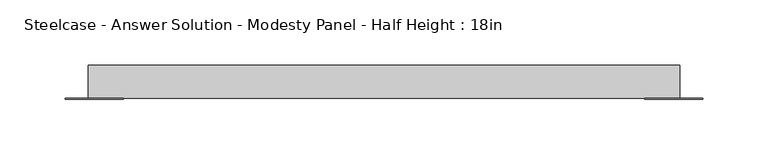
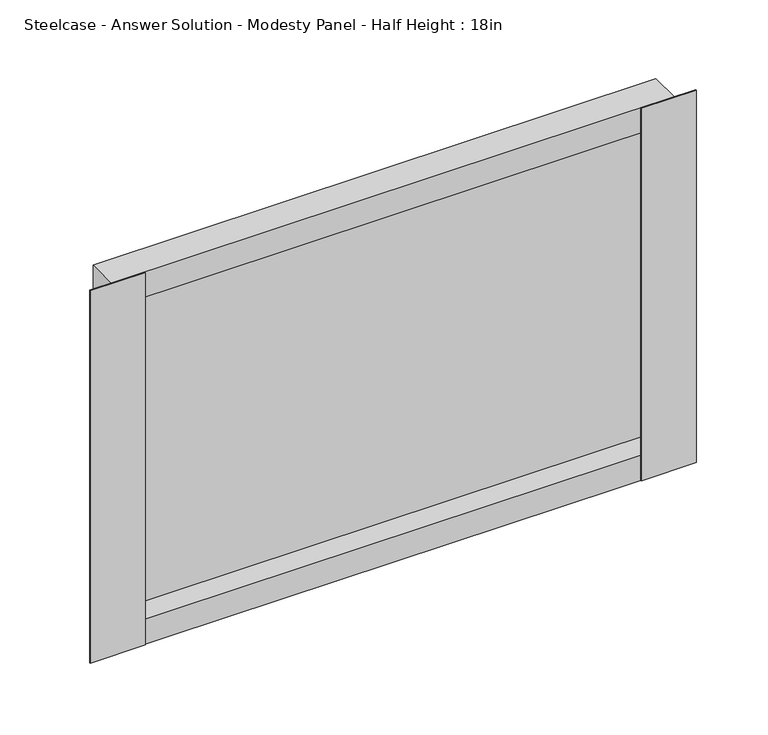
"""IFC4 building model written with IfcOpenShell, lengths in millimetres: furniture geometry, Steelcase - Answer Solution - Modesty Panel - Half Height : 18in."""

from ifc_helpers import new_model, si_unit, frame, origin, place, context, project, spatial, polyline, outline, extrude, faceted_brep, source, transform, mapped, element, save


def steelcase_answer_solution_modesty_panel_half_height_18in_19784406(model_context):
    return source(origin(), model_context, "Body", "SolidModel", [
        extrude(outline(polyline([(1000.7400478, -14.2668826), (1000.7400478, -15.0593624), (956.3248254, -15.0593624), (956.3248254, -14.2668826), (1000.7400478, -14.2668826)])), frame((0.0, 0.0, 17.653), z_axis=(0.0, 0.0, 1.0), x_axis=(1.0, 0.0, 0.0)), (0.0, 0.0, 1.0), 317.5),
        extrude(outline(polyline([(556.9673392, -14.2668826), (556.9673392, -15.0593624), (512.5520826, -15.0593624), (512.5520826, -14.2668826), (556.9673392, -14.2668826)])), frame((0.0, 0.0, 17.653), z_axis=(0.0, 0.0, 1.0), x_axis=(1.0, 0.0, 0.0)), (0.0, 0.0, 1.0), 317.5),
        faceted_brep([(530.0780827, 10.9045177, 17.653), (530.0780827, -14.2668826, 17.653), (530.0780827, -14.2668826, 335.153), (530.0780827, 10.9045177, 335.153), (983.2140827, -14.2668826, 17.653), (983.2140827, 10.9045177, 17.653), (983.2140827, 10.9045177, 335.153), (983.2140827, -14.2668826, 335.153), (982.4216165, 4.7831174, 39.243), (530.8705628, 4.7831174, 39.243), (530.8705628, -14.2668826, 39.243), (982.4216165, -14.2668826, 39.243), (530.8705628, -14.2668826, 313.563), (982.4216165, -14.2668826, 313.563), (530.8705628, 4.7831174, 313.563), (982.4216165, 4.7831174, 313.563)], [[[0, 1, 2, 3]], [[4, 5, 6, 7]], [[8, 9, 10, 11]], [[0, 3, 6, 5]], [[4, 1, 0, 5]], [[2, 1, 4, 7], [10, 12, 13, 11]], [[3, 2, 7, 6]], [[14, 15, 13, 12]], [[9, 8, 15, 14]], [[12, 10, 9, 14]], [[11, 13, 15, 8]]]),
    ])


if __name__ == "__main__":
    model = new_model("IFC4")
    model_context = context("Model", 3, world=origin())
    ifc_project = project(units=[si_unit("LENGTHUNIT", "METRE", prefix="MILLI")], contexts=[model_context])
    site = spatial("IfcSite", under=ifc_project)
    building = spatial("IfcBuilding", under=site)
    placement = place(None, origin())
    steelcase_answer_solution_modesty_panel_half_height_18in_shape = steelcase_answer_solution_modesty_panel_half_height_18in_19784406(model_context)
    element("IfcFurniture", 1, ObjectType="Steelcase - Answer Solution - Modesty Panel - Half Height : 18in", at=placement, inside=building, context=model_context, shape_type="MappedRepresentation", body=[
        mapped(steelcase_answer_solution_modesty_panel_half_height_18in_shape, transform((0.0, 0.0, 0.0), x_axis=(1.0, 0.0, 0.0), y_axis=(0.0, 1.0, 0.0), z_axis=(0.0, 0.0, 1.0))),
    ])
    save(model, "model.ifc")
